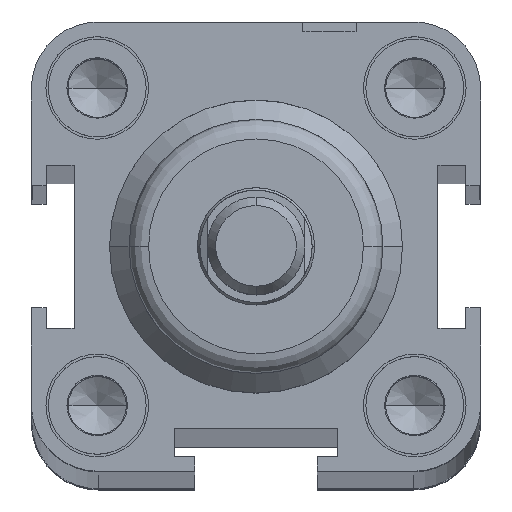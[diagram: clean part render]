
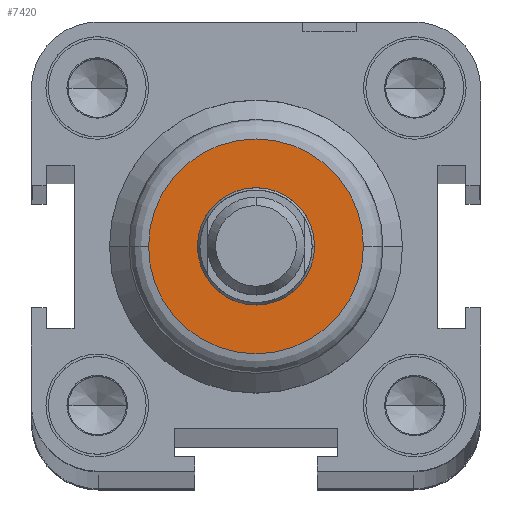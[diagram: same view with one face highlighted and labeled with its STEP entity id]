
A CAD part, top view. The second image highlights one B-rep face of the part: STEP entity #7420.
In plain terms, the highlighted planar face has unit normal (0, 0, 1).
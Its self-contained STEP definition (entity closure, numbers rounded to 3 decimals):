
#1472=CARTESIAN_POINT('',(-11.,0.0,563.));
#1473=VERTEX_POINT('',#1472);
#1481=CARTESIAN_POINT('',(11.,0.,563.));
#1482=VERTEX_POINT('',#1481);
#1483=CARTESIAN_POINT('',(0.0,0.0,563.));
#1484=DIRECTION('',(0.0,0.0,-1.0));
#1485=DIRECTION('',(-1.0,0.0,0.0));
#1486=AXIS2_PLACEMENT_3D('',#1483,#1484,#1485);
#1487=CIRCLE('',#1486,11.);
#1488=EDGE_CURVE('',#1473,#1482,#1487,.T.);
#1593=CARTESIAN_POINT('',(6.,0.0,563.));
#1594=VERTEX_POINT('',#1593);
#1610=CARTESIAN_POINT('',(-6.,0.,563.));
#1611=VERTEX_POINT('',#1610);
#1618=CARTESIAN_POINT('',(0.0,0.0,563.));
#1619=DIRECTION('',(0.0,0.0,-1.0));
#1620=DIRECTION('',(1.0,0.0,0.0));
#1621=AXIS2_PLACEMENT_3D('',#1618,#1619,#1620);
#1622=CIRCLE('',#1621,6.);
#1623=EDGE_CURVE('',#1594,#1611,#1622,.T.);
#7347=CARTESIAN_POINT('',(0.0,0.0,563.));
#7348=DIRECTION('',(0.0,0.0,-1.0));
#7349=DIRECTION('',(1.0,0.0,0.0));
#7350=AXIS2_PLACEMENT_3D('',#7347,#7348,#7349);
#7351=CIRCLE('',#7350,6.);
#7352=EDGE_CURVE('',#1611,#1594,#7351,.T.);
#7401=CARTESIAN_POINT('',(-5.5,0.0,563.));
#7402=DIRECTION('',(0.0,0.0,1.0));
#7403=DIRECTION('',(1.0,0.0,0.0));
#7404=AXIS2_PLACEMENT_3D('',#7401,#7402,#7403);
#7405=PLANE('',#7404);
#7406=ORIENTED_EDGE('',*,*,#1488,.F.);
#7407=CARTESIAN_POINT('',(0.0,0.0,563.));
#7408=DIRECTION('',(0.0,0.0,-1.0));
#7409=DIRECTION('',(-1.0,0.0,0.0));
#7410=AXIS2_PLACEMENT_3D('',#7407,#7408,#7409);
#7411=CIRCLE('',#7410,11.);
#7412=EDGE_CURVE('',#1482,#1473,#7411,.T.);
#7413=ORIENTED_EDGE('',*,*,#7412,.F.);
#7414=EDGE_LOOP('',(#7406,#7413));
#7415=FACE_OUTER_BOUND('',#7414,.T.);
#7416=ORIENTED_EDGE('',*,*,#1623,.T.);
#7417=ORIENTED_EDGE('',*,*,#7352,.T.);
#7418=EDGE_LOOP('',(#7416,#7417));
#7419=FACE_BOUND('',#7418,.T.);
#7420=ADVANCED_FACE('',(#7415,#7419),#7405,.T.);
